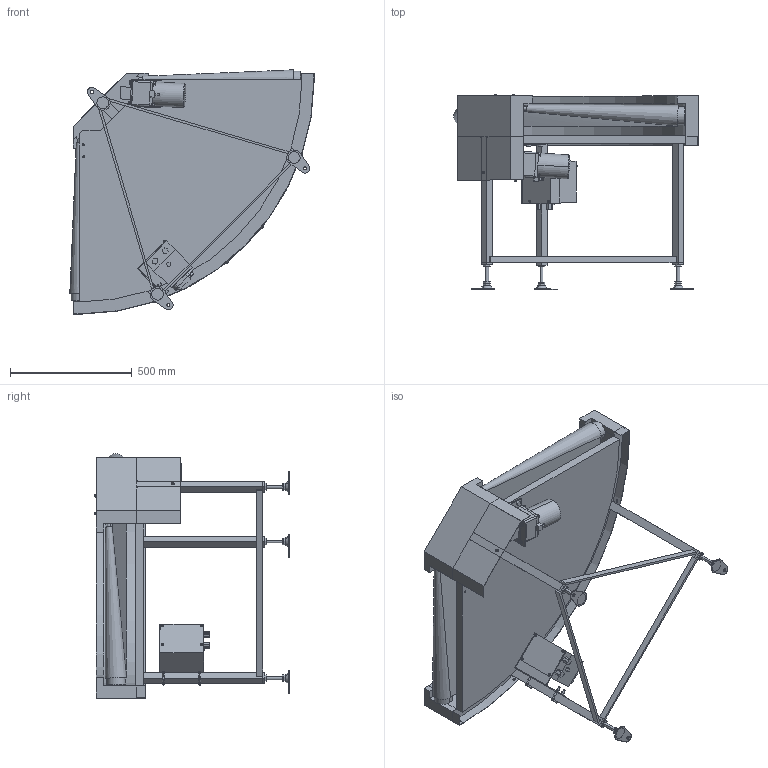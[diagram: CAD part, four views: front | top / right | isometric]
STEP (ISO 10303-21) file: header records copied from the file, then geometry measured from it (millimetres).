
FILE_DESCRIPTION (( 'STEP AP214' ), '1' );
FILE_NAME ('FBC-309-600-90°-R-IV-60.STEP', '2023-03-07T06:23:46', ( '' ), ( '' ), 'SwSTEP 2.0', 'SolidWorks 2017', '' );
FILE_SCHEMA (( 'AUTOMOTIVE_DESIGN' ));
Length unit declared in the file: millimetre
Products named in the file (1): FBC-309-600-90°-R-IV-60
Bounding box: 1002.08 x 797.9 x 1002.08 mm (x, y, z)
Volume: 88280848.6 mm3; surface area: 5966409.2 mm2
Topology: 41 solids, 42 shells, 1191 faces, 2808 edges, 1796 vertices
Faces by surface type: plane 676, cylinder 372, cone 69, torus 38, bspline 36
Entity records: 38414 total; most frequent: CARTESIAN_POINT 10199, DIRECTION 5818, ORIENTED_EDGE 5584, EDGE_CURVE 2792, AXIS2_PLACEMENT_3D 2054, VERTEX_POINT 1796, LINE 1710, VECTOR 1710
